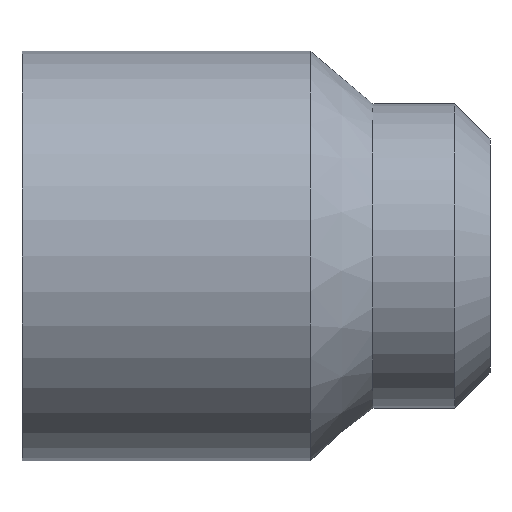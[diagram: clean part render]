
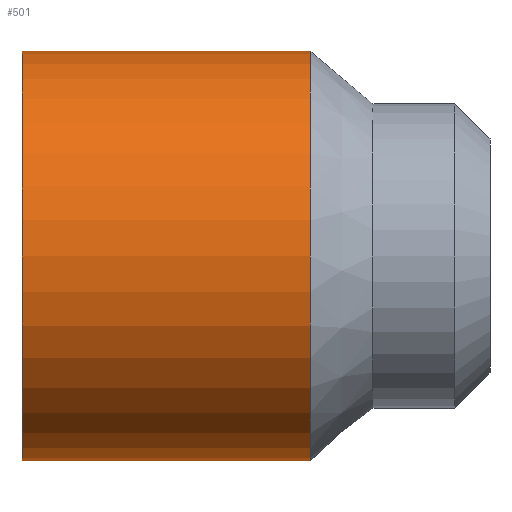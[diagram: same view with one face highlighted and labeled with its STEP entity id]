
A CAD part, front view. The second image highlights one B-rep face of the part: STEP entity #501.
In plain terms, the highlighted cylindrical face has radius 17.5 mm (diameter 35 mm), a partial arc.
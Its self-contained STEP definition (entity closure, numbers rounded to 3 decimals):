
#32=CARTESIAN_POINT('',(53.5,0.,64.02));
#33=VERTEX_POINT('',#32);
#42=CARTESIAN_POINT('',(53.5,-0.,29.02));
#43=VERTEX_POINT('',#42);
#51=CARTESIAN_POINT('',(53.5,0.,46.52));
#52=DIRECTION('',(1.,0.,0.));
#53=DIRECTION('',(0.,0.,-1.));
#54=AXIS2_PLACEMENT_3D('',#51,#52,#53);
#55=CIRCLE('',#54,17.5);
#56=EDGE_CURVE('',#33,#43,#55,.T.);
#384=CARTESIAN_POINT('',(78.137,0.,64.02));
#385=VERTEX_POINT('',#384);
#401=CARTESIAN_POINT('',(78.137,-0.,29.02));
#402=VERTEX_POINT('',#401);
#403=CARTESIAN_POINT('',(78.137,0.,46.52));
#404=DIRECTION('',(1.,0.,0.));
#405=DIRECTION('',(0.,0.,-1.));
#406=AXIS2_PLACEMENT_3D('',#403,#404,#405);
#407=CIRCLE('',#406,17.5);
#408=EDGE_CURVE('',#385,#402,#407,.T.);
#425=CARTESIAN_POINT('',(78.137,0.,29.02));
#426=DIRECTION('',(-1.,-0.,0.));
#427=VECTOR('',#426,24.637);
#428=LINE('',#425,#427);
#429=EDGE_CURVE('',#402,#43,#428,.T.);
#432=CARTESIAN_POINT('',(78.137,0.,64.02));
#433=DIRECTION('',(-1.,0.,0.));
#434=VECTOR('',#433,24.637);
#435=LINE('',#432,#434);
#436=EDGE_CURVE('',#385,#33,#435,.T.);
#490=CARTESIAN_POINT('',(93.5,0.,46.52));
#491=DIRECTION('',(1.,0.,0.));
#492=DIRECTION('',(0.,0.,-1.));
#493=AXIS2_PLACEMENT_3D('',#490,#491,#492);
#494=CYLINDRICAL_SURFACE('',#493,17.5);
#495=ORIENTED_EDGE('',*,*,#429,.F.);
#496=ORIENTED_EDGE('',*,*,#408,.F.);
#497=ORIENTED_EDGE('',*,*,#436,.T.);
#498=ORIENTED_EDGE('',*,*,#56,.T.);
#499=EDGE_LOOP('',(#495,#496,#497,#498));
#500=FACE_BOUND('',#499,.T.);
#501=ADVANCED_FACE('',(#500),#494,.T.);
